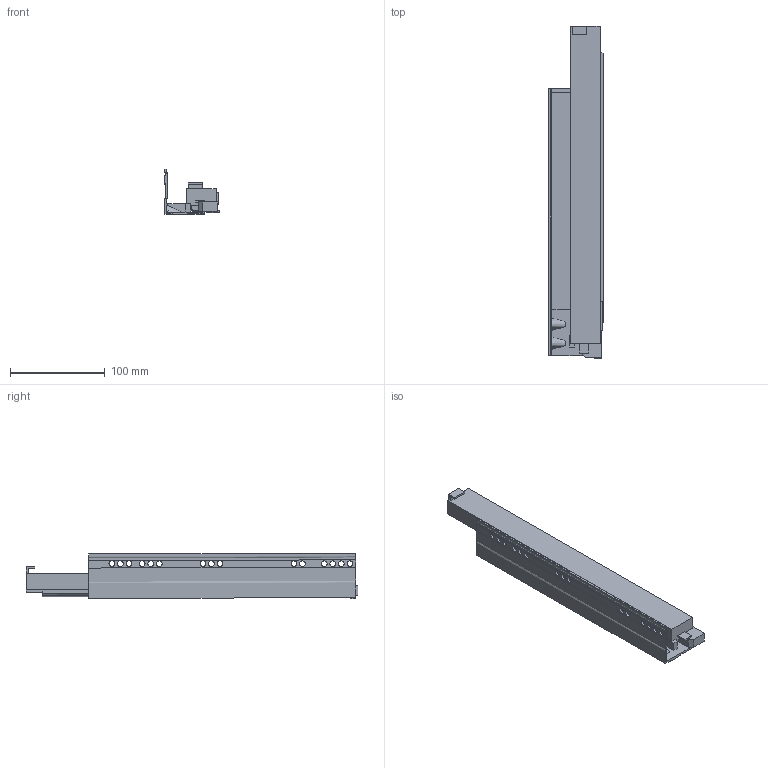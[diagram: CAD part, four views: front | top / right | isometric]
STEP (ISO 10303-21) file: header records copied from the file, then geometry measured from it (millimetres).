
FILE_DESCRIPTION (( 'STEP AP214' ), '1' );
FILE_NAME ('_IMOS_Dynapro_Softclose_D514_NL_350_LI.step', '2010-07-16T06:00:57', ( 'grass' ), ( '' ), 'SwSTEP 2.0', 'SolidWorks 2009', '' );
FILE_SCHEMA (( 'AUTOMOTIVE_DESIGN' ));
Length unit declared in the file: millimetre
Products named in the file (1): _IMOS_Dynapro_Softclose_D514_NL_350_LI
Bounding box: 57.08 x 350.07 x 47.86 mm (x, y, z)
Volume: 324357.6 mm3; surface area: 109133.3 mm2
Topology: 1 solids, 1 shells, 112 faces, 385 edges, 271 vertices
Faces by surface type: plane 75, cylinder 30, bspline 7
Entity records: 4981 total; most frequent: CARTESIAN_POINT 1483, ORIENTED_EDGE 762, DIRECTION 671, EDGE_CURVE 381, LINE 297, VECTOR 297, VERTEX_POINT 271, AXIS2_PLACEMENT_3D 187
